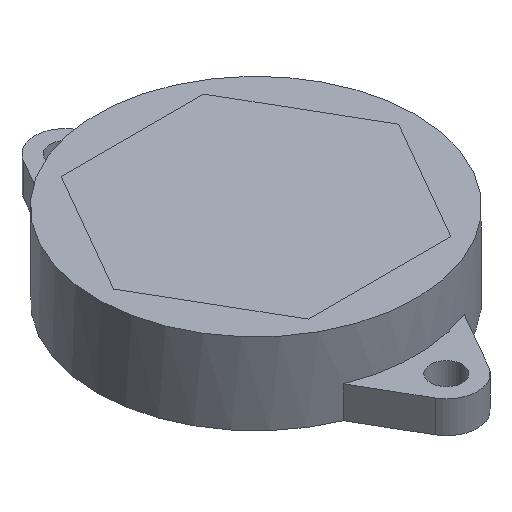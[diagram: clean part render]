
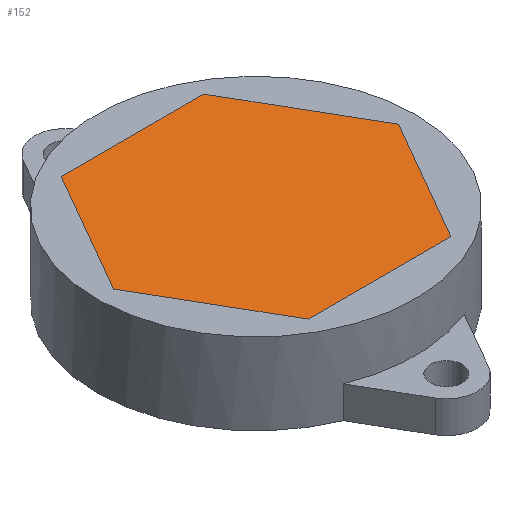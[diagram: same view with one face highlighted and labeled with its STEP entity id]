
A CAD part, isometric view. The second image highlights one B-rep face of the part: STEP entity #152.
In plain terms, the highlighted planar face has unit normal (0, 0, 1).
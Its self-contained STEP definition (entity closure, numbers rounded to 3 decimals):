
#119=FACE_OUTER_BOUND('',#330,.T.);
#152=ADVANCED_FACE('',(#119),#175,.T.);
#175=PLANE('',#625);
#210=LINE('',#863,#262);
#214=LINE('',#872,#266);
#217=LINE('',#878,#269);
#220=LINE('',#884,#272);
#223=LINE('',#890,#275);
#226=LINE('',#896,#278);
#262=VECTOR('',#728,1.);
#266=VECTOR('',#734,1.);
#269=VECTOR('',#739,1.);
#272=VECTOR('',#744,1.);
#275=VECTOR('',#749,1.);
#278=VECTOR('',#754,1.);
#330=EDGE_LOOP('',(#455,#456,#457,#458,#459,#460));
#455=ORIENTED_EDGE('',*,*,#553,.T.);
#456=ORIENTED_EDGE('',*,*,#557,.T.);
#457=ORIENTED_EDGE('',*,*,#560,.T.);
#458=ORIENTED_EDGE('',*,*,#563,.T.);
#459=ORIENTED_EDGE('',*,*,#566,.T.);
#460=ORIENTED_EDGE('',*,*,#569,.T.);
#494=VERTEX_POINT('',#864);
#495=VERTEX_POINT('',#865);
#498=VERTEX_POINT('',#873);
#500=VERTEX_POINT('',#879);
#502=VERTEX_POINT('',#885);
#504=VERTEX_POINT('',#891);
#553=EDGE_CURVE('',#494,#495,#210,.T.);
#557=EDGE_CURVE('',#495,#498,#214,.T.);
#560=EDGE_CURVE('',#498,#500,#217,.T.);
#563=EDGE_CURVE('',#500,#502,#220,.T.);
#566=EDGE_CURVE('',#502,#504,#223,.T.);
#569=EDGE_CURVE('',#504,#494,#226,.T.);
#625=AXIS2_PLACEMENT_3D('',#900,#760,#761);
#728=DIRECTION('',(0.5,-0.866,0.));
#734=DIRECTION('',(1.,0.,0.));
#739=DIRECTION('',(0.5,0.866,0.));
#744=DIRECTION('',(-0.5,0.866,0.));
#749=DIRECTION('',(-1.,0.,0.));
#754=DIRECTION('',(-0.5,-0.866,0.));
#760=DIRECTION('',(0.,0.,1.));
#761=DIRECTION('',(1.,0.,0.));
#863=CARTESIAN_POINT('',(-13.856,0.,7.9));
#864=CARTESIAN_POINT('',(-13.856,0.,7.9));
#865=CARTESIAN_POINT('',(-6.928,-12.,7.9));
#872=CARTESIAN_POINT('',(-6.928,-12.,7.9));
#873=CARTESIAN_POINT('',(6.928,-12.,7.9));
#878=CARTESIAN_POINT('',(6.928,-12.,7.9));
#879=CARTESIAN_POINT('',(13.856,0.,7.9));
#884=CARTESIAN_POINT('',(13.856,0.,7.9));
#885=CARTESIAN_POINT('',(6.928,12.,7.9));
#890=CARTESIAN_POINT('',(6.928,12.,7.9));
#891=CARTESIAN_POINT('',(-6.928,12.,7.9));
#896=CARTESIAN_POINT('',(-6.928,12.,7.9));
#900=CARTESIAN_POINT('',(-6.928,-12.,7.9));
